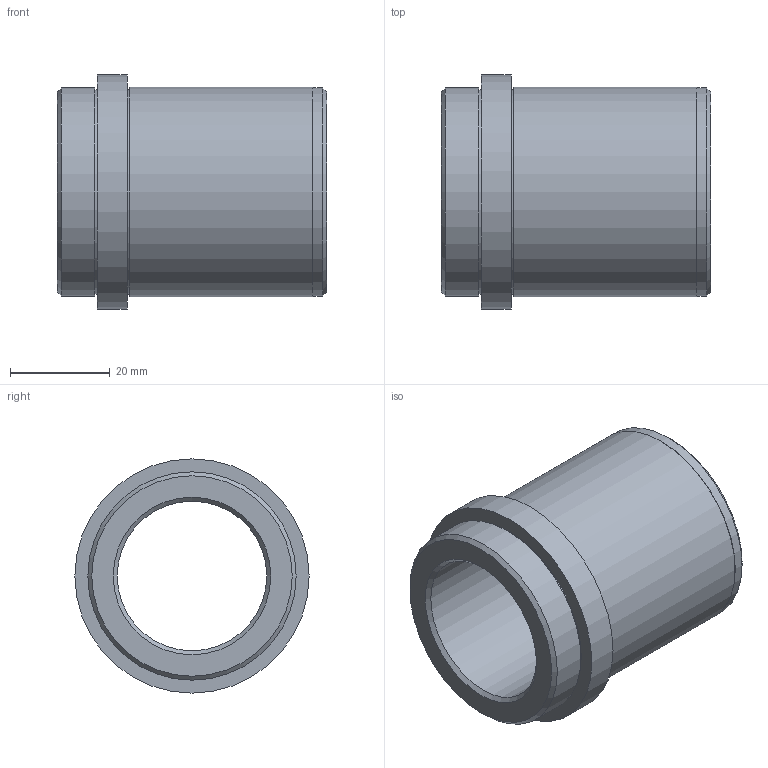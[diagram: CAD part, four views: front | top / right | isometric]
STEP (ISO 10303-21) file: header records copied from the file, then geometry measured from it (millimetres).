
FILE_DESCRIPTION(/* description */ ('Impex Ready, www.impex-ready.pl'),/* implementation_level */ '2;1');
FILE_NAME(/* name */ 'C:\Users\VIKKY\Nextcloud\SM\projekt 10 - części na stronę internetową\Pliki_3D_new\308 Tuleje BG06\308 BG06_STEP\BG06.030046.ipt.step',/* time_stamp */ '2021-12-21T17:34:35+01:00',/* author */ ('SM'),/* organization */ (''),/* preprocessor_version */ 'ST-DEVELOPER v18.1',/* originating_system */ 'Autodesk Inventor 2021',/* authorisation */ '');
FILE_SCHEMA (('AUTOMOTIVE_DESIGN { 1 0 10303 214 3 1 1 }'));
Length unit declared in the file: millimetre
Products named in the file (1): BG06.030046
Bounding box: 54 x 47 x 47 mm (x, y, z)
Volume: 38395.4 mm3; surface area: 14378.3 mm2
Topology: 1 solids, 1 shells, 18 faces, 33 edges, 22 vertices
Faces by surface type: plane 7, cylinder 7, cone 4
Full cylindrical faces by diameter (mm): 30 x1, 41 x2, 41.8 x2, 42 x1, 47 x1
Entity records: 540 total; most frequent: DIRECTION 93, CARTESIAN_POINT 74, ORIENTED_EDGE 66, AXIS2_PLACEMENT_3D 41, EDGE_CURVE 33, EDGE_LOOP 25, CIRCLE 22, VERTEX_POINT 22
